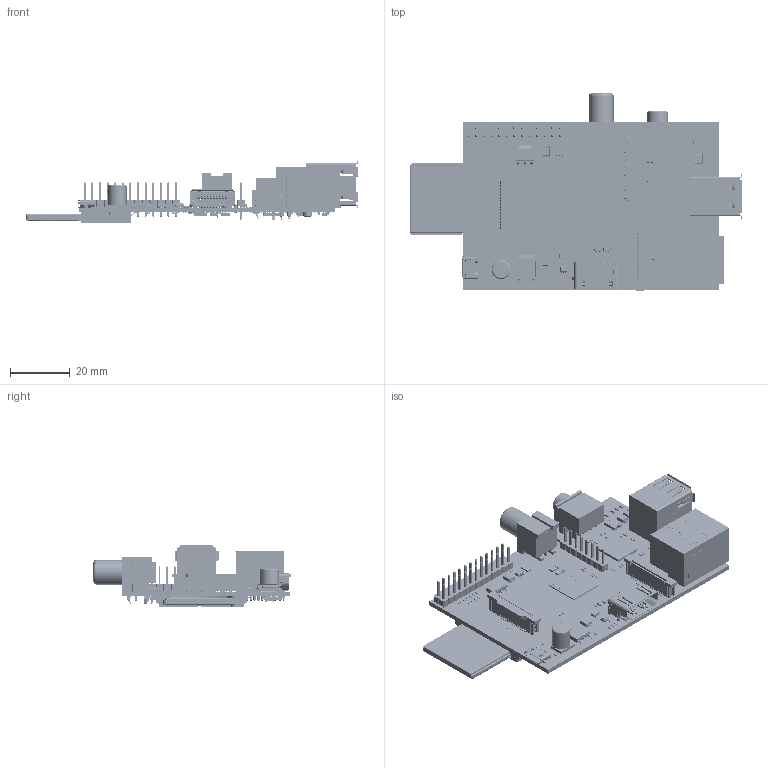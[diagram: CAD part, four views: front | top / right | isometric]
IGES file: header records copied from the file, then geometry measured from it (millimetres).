
Start section: SolidWorks IGES file using analytic representation for surfaces
Global section: file name: D:\downloads\raspberry-pi-b-1.snapshot.4\Nova pasta\raspberrypi_b_assembly.IGS; native system: SolidWorks 2012; preprocessor: SolidWorks 2012; author: Juarez-scn; date: 130927.155328; units: millimetre
Bounding box: 110.83 x 65.9 x 20.48 mm (x, y, z)
Surface area: 30785.2 mm2 (no closed solid volume)
Topology: 0 solids, 0 shells, 16790 faces, 100640 edges, 100492 vertices
Faces by surface type: bspline 14059, revolution 2731
